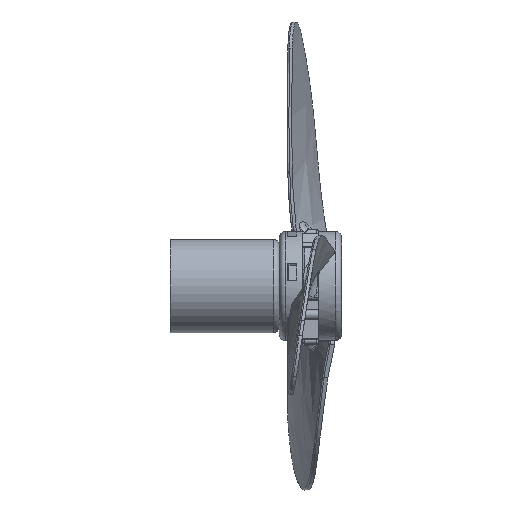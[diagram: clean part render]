
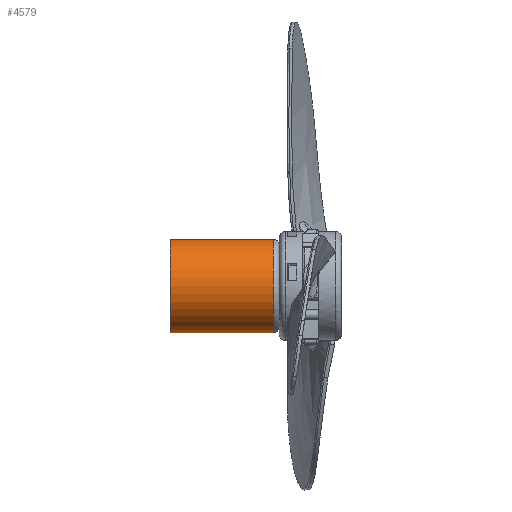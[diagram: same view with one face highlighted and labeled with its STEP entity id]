
A CAD part, left-side view. The second image highlights one B-rep face of the part: STEP entity #4579.
In plain terms, the highlighted cylindrical face has radius 15 mm (diameter 30 mm), a full revolution.
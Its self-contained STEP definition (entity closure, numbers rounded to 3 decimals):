
#251=CYLINDRICAL_SURFACE('',#5132,15.);
#601=CIRCLE('',#5119,15.);
#604=CIRCLE('',#5128,15.);
#833=FACE_OUTER_BOUND('',#1141,.T.);
#1141=EDGE_LOOP('',(#3986,#3987,#3988,#3989));
#1457=LINE('',#10831,#1767);
#1767=VECTOR('',#6148,15.);
#2171=VERTEX_POINT('',#10768);
#2188=VERTEX_POINT('',#10812);
#2777=EDGE_CURVE('',#2171,#2171,#601,.T.);
#2798=EDGE_CURVE('',#2188,#2188,#604,.T.);
#2807=EDGE_CURVE('',#2171,#2188,#1457,.T.);
#3986=ORIENTED_EDGE('',*,*,#2777,.F.);
#3987=ORIENTED_EDGE('',*,*,#2807,.T.);
#3988=ORIENTED_EDGE('',*,*,#2798,.F.);
#3989=ORIENTED_EDGE('',*,*,#2807,.F.);
#4579=ADVANCED_FACE('',(#833),#251,.T.);
#5119=AXIS2_PLACEMENT_3D('',#10769,#6096,#6097);
#5128=AXIS2_PLACEMENT_3D('',#10813,#6132,#6133);
#5132=AXIS2_PLACEMENT_3D('',#10830,#6146,#6147);
#6096=DIRECTION('center_axis',(0.,0.,1.));
#6097=DIRECTION('ref_axis',(1.,0.,0.));
#6132=DIRECTION('center_axis',(0.,0.,-1.));
#6133=DIRECTION('ref_axis',(-1.,0.,0.));
#6146=DIRECTION('center_axis',(0.,0.,1.));
#6147=DIRECTION('ref_axis',(1.,0.,0.));
#6148=DIRECTION('',(0.,0.,-1.));
#10768=CARTESIAN_POINT('',(-15.,0.,35.));
#10769=CARTESIAN_POINT('Origin',(0.,0.,35.));
#10812=CARTESIAN_POINT('',(-15.,0.,2.));
#10813=CARTESIAN_POINT('Origin',(0.,0.,2.));
#10830=CARTESIAN_POINT('Origin',(0.,0.,0.));
#10831=CARTESIAN_POINT('',(-15.,0.,0.));
